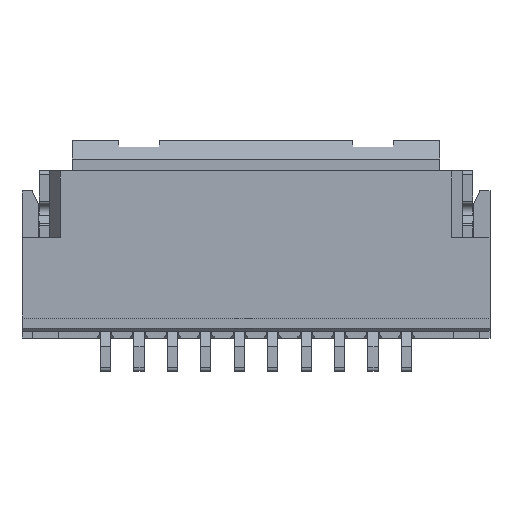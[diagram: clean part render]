
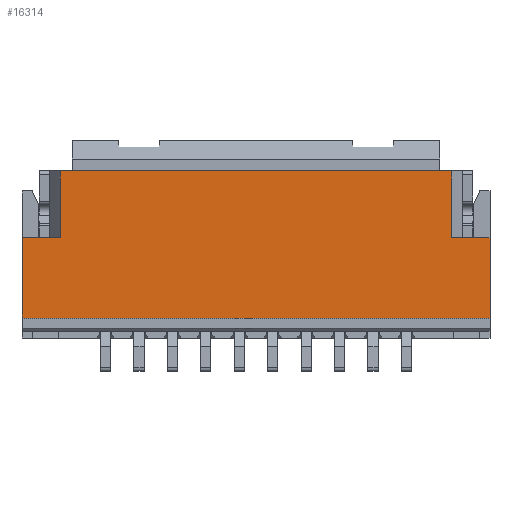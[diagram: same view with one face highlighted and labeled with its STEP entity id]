
A CAD part, front view. The second image highlights one B-rep face of the part: STEP entity #16314.
In plain terms, the highlighted planar face has unit normal (0, -1, 0).
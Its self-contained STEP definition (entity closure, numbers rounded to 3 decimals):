
#1=DIRECTION('',(0.,0.,1.));
#2=VECTOR('',#1,1.);
#3=CARTESIAN_POINT('',(3.68,0.,0.25));
#4=LINE('',#3,#2);
#5=DIRECTION('',(-1.,0.,0.));
#6=VECTOR('',#5,0.57);
#7=CARTESIAN_POINT('',(4.25,0.,0.25));
#8=LINE('',#7,#6);
#9=DIRECTION('',(0.,0.,1.));
#10=VECTOR('',#9,1.2);
#11=CARTESIAN_POINT('',(4.25,0.,-0.95));
#12=LINE('',#11,#10);
#13=DIRECTION('',(0.,0.,1.));
#14=VECTOR('',#13,1.2);
#15=CARTESIAN_POINT('',(-2.75,0.,-0.95));
#16=LINE('',#15,#14);
#17=DIRECTION('',(1.,0.,0.));
#18=VECTOR('',#17,0.57);
#19=CARTESIAN_POINT('',(-2.75,0.,0.25));
#20=LINE('',#19,#18);
#21=DIRECTION('',(0.,0.,1.));
#22=VECTOR('',#21,1.);
#23=CARTESIAN_POINT('',(-2.18,0.,0.25));
#24=LINE('',#23,#22);
#73=DIRECTION('',(-1.,0.,0.));
#74=VECTOR('',#73,5.86);
#75=CARTESIAN_POINT('',(3.68,0.,1.25));
#76=LINE('',#75,#74);
#765=DIRECTION('',(1.,0.,0.));
#766=VECTOR('',#765,7.);
#767=CARTESIAN_POINT('',(-2.75,0.,-0.95));
#768=LINE('',#767,#766);
#12423=CARTESIAN_POINT('',(-2.75,0.,-0.95));
#12424=CARTESIAN_POINT('',(-2.75,0.,0.25));
#12425=VERTEX_POINT('',#12423);
#12426=VERTEX_POINT('',#12424);
#12427=CARTESIAN_POINT('',(-2.18,0.,0.25));
#12428=VERTEX_POINT('',#12427);
#12429=CARTESIAN_POINT('',(-2.18,0.,1.25));
#12430=VERTEX_POINT('',#12429);
#14367=CARTESIAN_POINT('',(4.25,0.,-0.95));
#14368=CARTESIAN_POINT('',(4.25,0.,0.25));
#14369=VERTEX_POINT('',#14367);
#14370=VERTEX_POINT('',#14368);
#14371=CARTESIAN_POINT('',(3.68,0.,0.25));
#14372=VERTEX_POINT('',#14371);
#14373=CARTESIAN_POINT('',(3.68,0.,1.25));
#14374=VERTEX_POINT('',#14373);
#16291=CARTESIAN_POINT('',(0.,0.,0.15));
#16292=DIRECTION('',(0.,1.,0.));
#16293=DIRECTION('',(1.,0.,0.));
#16294=AXIS2_PLACEMENT_3D('',#16291,#16292,#16293);
#16295=PLANE('',#16294);
#16297=ORIENTED_EDGE('',*,*,#16296,.F.);
#16299=ORIENTED_EDGE('',*,*,#16298,.F.);
#16301=ORIENTED_EDGE('',*,*,#16300,.F.);
#16303=ORIENTED_EDGE('',*,*,#16302,.F.);
#16305=ORIENTED_EDGE('',*,*,#16304,.F.);
#16307=ORIENTED_EDGE('',*,*,#16306,.T.);
#16309=ORIENTED_EDGE('',*,*,#16308,.T.);
#16311=ORIENTED_EDGE('',*,*,#16310,.T.);
#16312=EDGE_LOOP('',(#16297,#16299,#16301,#16303,#16305,#16307,#16309,#16311));
#16313=FACE_OUTER_BOUND('',#16312,.F.);
#16296=EDGE_CURVE('',#14374,#12430,#76,.T.);
#16298=EDGE_CURVE('',#14372,#14374,#4,.T.);
#16300=EDGE_CURVE('',#14370,#14372,#8,.T.);
#16302=EDGE_CURVE('',#14369,#14370,#12,.T.);
#16304=EDGE_CURVE('',#12425,#14369,#768,.T.);
#16306=EDGE_CURVE('',#12425,#12426,#16,.T.);
#16308=EDGE_CURVE('',#12426,#12428,#20,.T.);
#16310=EDGE_CURVE('',#12428,#12430,#24,.T.);
#16314=ADVANCED_FACE('',(#16313),#16295,.F.);
